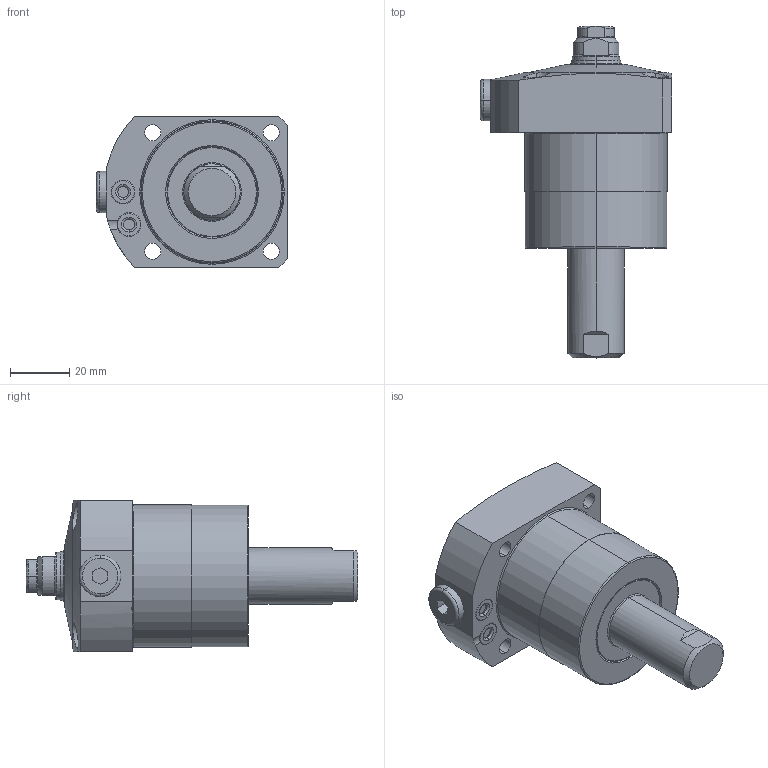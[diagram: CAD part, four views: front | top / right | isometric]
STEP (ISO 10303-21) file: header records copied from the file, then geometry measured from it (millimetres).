
FILE_DESCRIPTION(/* description */ (''),/* implementation_level */ '2;1');
FILE_NAME(/* name */ 'KFSC48-Q.stp',/* time_stamp */ '2026-02-04T15:30:30+08:00',/* author */ (''),/* organization */ (''),/* preprocessor_version */ 'ST-DEVELOPER v16.7',/* originating_system */ 'SIEMENS PLM Software NX 12.0',/* authorisation */ '');
FILE_SCHEMA (('AUTOMOTIVE_DESIGN { 1 0 10303 214 3 1 1 1 }'));
Length unit declared in the file: millimetre
Products named in the file (8): XLC-M10_contactbolt3482; XLC-M10_Oring5871; KFSC48-Q-01; P5-4; KFSC48-Q-04; KFSC48-Q-03; KFSC48-Q-02; LC0483-C-Q_step
Assembly tree (8 placements, depth 3):
  LC0483-C-Q_step
    KFSC48-Q-03
    KFSC48-Q-02
      XLC-M10_Oring5871
      XLC-M10_contactbolt3482
    KFSC48-Q-04
    P5-4  x2
    KFSC48-Q-01
Bounding box: 64.5 x 112 x 51 mm (x, y, z)
Volume: 141259.5 mm3; surface area: 24853.8 mm2
Topology: 7 solids, 7 shells, 231 faces, 518 edges, 318 vertices
Faces by surface type: cylinder 73, torus 62, plane 59, cone 35, sphere 2
Entity records: 6660 total; most frequent: CARTESIAN_POINT 1323, DIRECTION 1192, ORIENTED_EDGE 988, AXIS2_PLACEMENT_3D 519, EDGE_CURVE 494, VERTEX_POINT 304, CIRCLE 291, EDGE_LOOP 248
